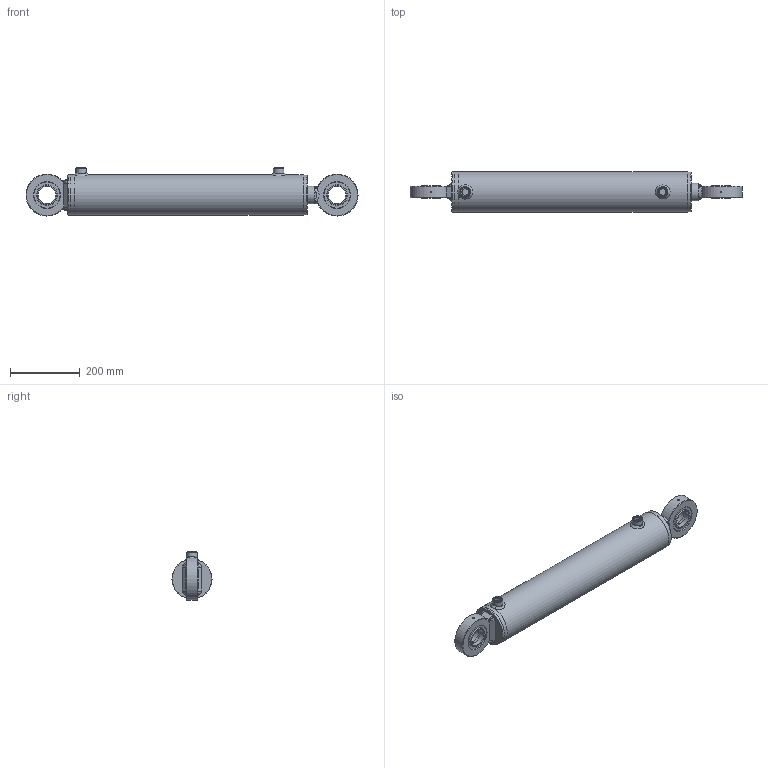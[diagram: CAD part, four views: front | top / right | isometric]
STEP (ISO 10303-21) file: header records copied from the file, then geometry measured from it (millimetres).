
FILE_DESCRIPTION( ( 'Unknown' ), '1' );
FILE_NAME( 'E:/LIBRERIA_3d/CILINDRI/HMC/HMC6500500.stp', 'Unknown', ( 'Unknown' ), ( 'Unknown' ), 'PSStep 17.0.49', 'Unknown', ' ' );
FILE_SCHEMA( ( 'AUTOMOTIVE_DESIGN { 1 0 10303 214 1 1 1 1 }' ) );
Length unit declared in the file: millimetre
Products named in the file (27): CG11510050; CT00100033; STL6700500-oa6; Saldatura d'angolo 1-oa4; FTM6700500-oa5; CBSC220800; CAGEG12007550; CGE0500000; CAGE120075; HM06500500; CF00100115; Saldatura con preparazione 1-oa2; Saldatura d'angolo 1-oa3; CBS0800000; CDA0003320; APG0800000; SBL5060500; Assem1; Saldatura d'angolo 1-oa0; Saldatura d'angolo 2-oa1
Assembly tree (20 placements, depth 4):
  Saldatura d'angolo 1-oa4
  Saldatura d'angolo 1-oa4
  Saldatura d'angolo 1-oa3
  Saldatura d'angolo 1-oa3
  Assem1
    CAGEG12007550  x2
      CGE0500000
      CAGE120075
    HM06500500
      CF00100115
      Saldatura con preparazione 1-oa2
      Saldatura con preparazione 1-oa2
      CBS0800000
      CDA0003320
      APG0800000  x2
      SBL5060500
      CG11510050
        CG11510050
      CT00100033
        CT00100033
      STL6700500-oa6
        FTM6700500-oa5
        CBSC220800
Bounding box: 950 x 115 x 137.5 mm (x, y, z)
Volume: 4636955.8 mm3; surface area: 874032 mm2
Topology: 24 solids, 24 shells, 374 faces, 830 edges, 491 vertices
Faces by surface type: bspline 134, plane 80, cylinder 78, cone 42, torus 36, sphere 4
Full cylindrical faces by diameter (mm): 3 x4, 4.25 x1, 4.917 x4, 8 x2, 12 x1, 18.631 x2, 19.5 x2, 20.95 x2, 26 x2, 30 x2, 32.4 x1, 33 x5, 39.2 x1, 50 x10, 53 x3, 58.6 x1, 60 x1, 73 x2, 75 x7, 91.5 x1, 93.14 x2, 98.05 x2, 99.9 x1, 100 x1, 100.3 x1, 100.5 x1, 100.6 x1, 101 x1, 102 x3, 102.835 x1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
Entity records: 17593 total; most frequent: CARTESIAN_POINT 9146, ORIENTED_EDGE 1070, DIRECTION 888, EDGE_LOOP 539, EDGE_CURVE 535, FACE_OUTER_BOUND 446, AXIS2_PLACEMENT_3D 431, VERTEX_POINT 399
